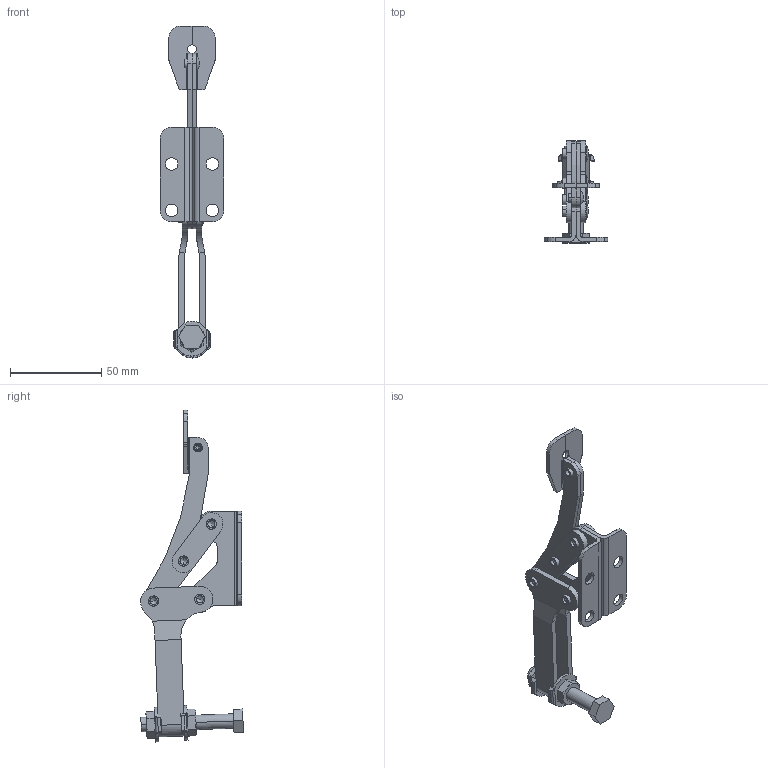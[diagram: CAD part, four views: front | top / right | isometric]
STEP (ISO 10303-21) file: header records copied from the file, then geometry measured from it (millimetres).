
FILE_DESCRIPTION((''),'2;1');
FILE_NAME('C:\lapeer-mfg\H-400\step\H-401.stp','2005-02-06T08:35:31',('rtaylor'),(''),'Autodesk Inventor 9','Autodesk Inventor 9','');
FILE_SCHEMA(('AUTOMOTIVE_DESIGN { 1 0 10303 214 1 1 1 1 }'));
Length unit declared in the file: inch
Products named in the file (15): H-401; 300039; 100039L; 100039r; 150047; 130015; 150012; 110127L; 110127R; 470375; 170375; 171123; 16 - 18; 120117L; 120117R
Assembly tree (20 placements, depth 3):
  H-401
    300039
      100039L
      100039r
      150047
    130015  x2
    150012  x4
    110127L
    110127R
    470375
      170375
      171123  x2
      16 - 18  x2
    120117L
    120117R
Bounding box: 34.9 x 56.44 x 182.21 mm (x, y, z)
Volume: 32864.1 mm3; surface area: 31388.7 mm2
Topology: 18 solids, 18 shells, 386 faces, 978 edges, 629 vertices
Faces by surface type: bspline 135, plane 103, cylinder 83, cone 40, torus 20, sphere 5
Entity records: 10283 total; most frequent: CARTESIAN_POINT 3003, ORIENTED_EDGE 1462, DIRECTION 1452, EDGE_CURVE 731, AXIS2_PLACEMENT_3D 540, VERTEX_POINT 479, VECTOR 372, LINE 372
